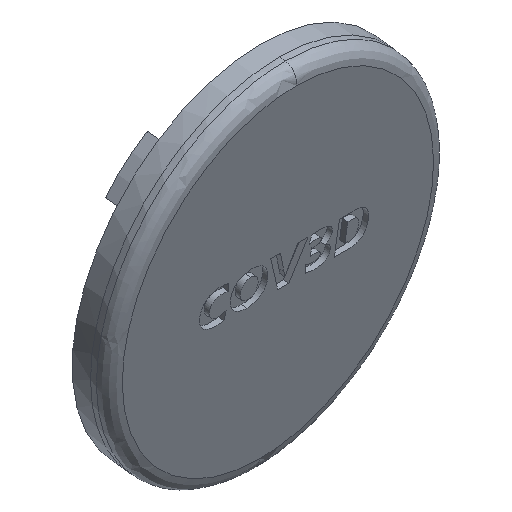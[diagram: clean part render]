
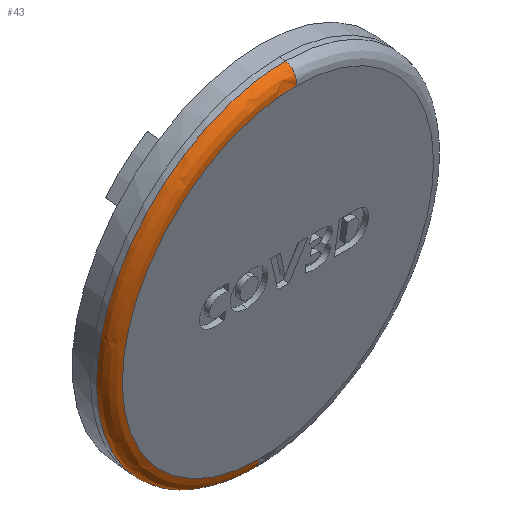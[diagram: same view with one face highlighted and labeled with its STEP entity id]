
A CAD part, isometric view. The second image highlights one B-rep face of the part: STEP entity #43.
In plain terms, the highlighted free-form (B-spline) face has degree [2, 2] with [3, 5] control points.
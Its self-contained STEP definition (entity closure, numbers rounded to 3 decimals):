
#43=ADVANCED_FACE('',(#110),#1043,.T.);
#110=FACE_OUTER_BOUND('',#186,.T.);
#186=EDGE_LOOP('',(#321,#322,#323,#324));
#321=ORIENTED_EDGE('',*,*,#577,.F.);
#322=ORIENTED_EDGE('',*,*,#578,.T.);
#323=ORIENTED_EDGE('',*,*,#579,.T.);
#324=ORIENTED_EDGE('',*,*,#713,.F.);
#577=EDGE_CURVE('',#888,#977,#727,.T.);
#578=EDGE_CURVE('',#888,#889,#728,.T.);
#579=EDGE_CURVE('',#889,#978,#729,.T.);
#713=EDGE_CURVE('',#977,#978,#746,.T.);
#727=(
BOUNDED_CURVE()
B_SPLINE_CURVE(2,(#2068,#2069,#2070,#2071,#2072),.UNSPECIFIED.,.F.,.F.)
B_SPLINE_CURVE_WITH_KNOTS((3,2,3),(0.,43.396,86.792),
 .UNSPECIFIED.)
CURVE()
GEOMETRIC_REPRESENTATION_ITEM()
RATIONAL_B_SPLINE_CURVE((1.,0.707,1.,0.707,1.))
REPRESENTATION_ITEM('')
);
#728=(
BOUNDED_CURVE()
B_SPLINE_CURVE(2,(#2073,#2074,#2075),.UNSPECIFIED.,.F.,.F.)
B_SPLINE_CURVE_WITH_KNOTS((3,3),(0.,3.727),.UNSPECIFIED.)
CURVE()
GEOMETRIC_REPRESENTATION_ITEM()
RATIONAL_B_SPLINE_CURVE((1.,0.707,1.))
REPRESENTATION_ITEM('')
);
#729=(
BOUNDED_CURVE()
B_SPLINE_CURVE(2,(#2076,#2077,#2078,#2079,#2080),.UNSPECIFIED.,.F.,.F.)
B_SPLINE_CURVE_WITH_KNOTS((3,2,3),(0.,43.396,86.792),
 .UNSPECIFIED.)
CURVE()
GEOMETRIC_REPRESENTATION_ITEM()
RATIONAL_B_SPLINE_CURVE((1.,0.707,1.,0.707,1.))
REPRESENTATION_ITEM('')
);
#746=(
BOUNDED_CURVE()
B_SPLINE_CURVE(2,(#2816,#2817,#2818),.UNSPECIFIED.,.F.,.F.)
B_SPLINE_CURVE_WITH_KNOTS((3,3),(0.,3.727),.UNSPECIFIED.)
CURVE()
GEOMETRIC_REPRESENTATION_ITEM()
RATIONAL_B_SPLINE_CURVE((1.,0.707,1.))
REPRESENTATION_ITEM('')
);
#888=VERTEX_POINT('',#1920);
#889=VERTEX_POINT('',#1921);
#977=VERTEX_POINT('',#2009);
#978=VERTEX_POINT('',#2010);
#1043=(
BOUNDED_SURFACE()
B_SPLINE_SURFACE(2,2,((#1190,#1191,#1192,#1193,#1194),(#1195,#1196,#1197,
#1198,#1199),(#1200,#1201,#1202,#1203,#1204)),.UNSPECIFIED.,.F.,.F.,.F.)
B_SPLINE_SURFACE_WITH_KNOTS((3,3),(3,2,3),(0.,3.727),(0.,43.396,
86.792),.UNSPECIFIED.)
GEOMETRIC_REPRESENTATION_ITEM()
RATIONAL_B_SPLINE_SURFACE(((1.,0.707,1.,0.707,1.),
(0.707,0.5,0.707,0.5,
0.707),(1.,0.707,1.,0.707,1.)))
REPRESENTATION_ITEM('')
SURFACE()
);
#1190=CARTESIAN_POINT('',(-0.114,-103.42,-28.291));
#1191=CARTESIAN_POINT('',(-31.812,-103.382,-28.287));
#1192=CARTESIAN_POINT('',(-31.812,-107.163,6.785));
#1193=CARTESIAN_POINT('',(-31.812,-110.945,41.856));
#1194=CARTESIAN_POINT('',(-0.114,-110.983,41.852));
#1195=CARTESIAN_POINT('',(-0.116,-105.78,-28.545));
#1196=CARTESIAN_POINT('',(-31.815,-105.741,-28.541));
#1197=CARTESIAN_POINT('',(-31.815,-109.523,6.53));
#1198=CARTESIAN_POINT('',(-31.815,-113.304,41.602));
#1199=CARTESIAN_POINT('',(-0.116,-113.342,41.598));
#1200=CARTESIAN_POINT('',(-0.116,-106.079,-25.771));
#1201=CARTESIAN_POINT('',(-29.308,-106.044,-25.767));
#1202=CARTESIAN_POINT('',(-29.308,-109.526,6.53));
#1203=CARTESIAN_POINT('',(-29.308,-113.008,38.827));
#1204=CARTESIAN_POINT('',(-0.116,-113.043,38.823));
#1920=CARTESIAN_POINT('',(-0.114,-103.42,-28.291));
#1921=CARTESIAN_POINT('',(-0.116,-106.079,-25.771));
#2009=CARTESIAN_POINT('',(-0.114,-110.983,41.852));
#2010=CARTESIAN_POINT('',(-0.116,-113.043,38.823));
#2068=CARTESIAN_POINT('',(-0.114,-103.42,-28.291));
#2069=CARTESIAN_POINT('',(-31.812,-103.382,-28.287));
#2070=CARTESIAN_POINT('',(-31.812,-107.163,6.785));
#2071=CARTESIAN_POINT('',(-31.812,-110.945,41.856));
#2072=CARTESIAN_POINT('',(-0.114,-110.983,41.852));
#2073=CARTESIAN_POINT('',(-0.114,-103.42,-28.291));
#2074=CARTESIAN_POINT('',(-0.116,-105.78,-28.545));
#2075=CARTESIAN_POINT('',(-0.116,-106.079,-25.771));
#2076=CARTESIAN_POINT('',(-0.116,-106.079,-25.771));
#2077=CARTESIAN_POINT('',(-29.308,-106.044,-25.767));
#2078=CARTESIAN_POINT('',(-29.308,-109.526,6.53));
#2079=CARTESIAN_POINT('',(-29.308,-113.008,38.827));
#2080=CARTESIAN_POINT('',(-0.116,-113.043,38.823));
#2816=CARTESIAN_POINT('',(-0.114,-110.983,41.852));
#2817=CARTESIAN_POINT('',(-0.116,-113.342,41.598));
#2818=CARTESIAN_POINT('',(-0.116,-113.043,38.823));
